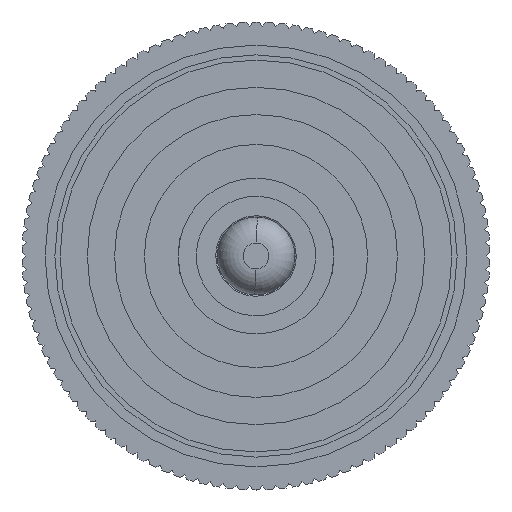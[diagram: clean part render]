
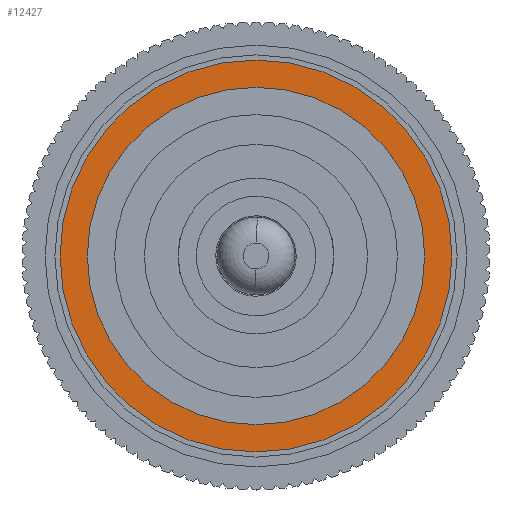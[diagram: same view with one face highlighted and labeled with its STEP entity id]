
A CAD part, left-side view. The second image highlights one B-rep face of the part: STEP entity #12427.
In plain terms, the highlighted planar face has unit normal (-1, 0, 0).
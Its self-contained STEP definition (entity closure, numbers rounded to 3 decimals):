
#96 = AXIS2_PLACEMENT_3D ( 'NONE', #7140, #8250, #2179 ) ;
#456 = CIRCLE ( 'NONE', #11334, 3.775 ) ;
#498 = AXIS2_PLACEMENT_3D ( 'NONE', #10244, #6403, #15113 ) ;
#735 = ORIENTED_EDGE ( 'NONE', *, *, #2872, .T. ) ;
#833 = ORIENTED_EDGE ( 'NONE', *, *, #2053, .F. ) ;
#898 = CIRCLE ( 'NONE', #96, 3.775 ) ;
#1579 = CARTESIAN_POINT ( 'NONE',  ( -20., 0., 0. ) ) ;
#1806 = CARTESIAN_POINT ( 'NONE',  ( -20., 3.775, 0. ) ) ;
#2053 = EDGE_CURVE ( 'NONE', #8077, #14846, #456, .T. ) ;
#2179 = DIRECTION ( 'NONE',  ( 0., 1., 0. ) ) ;
#2872 = EDGE_CURVE ( 'NONE', #4774, #11983, #13076, .T. ) ;
#3582 = AXIS2_PLACEMENT_3D ( 'NONE', #1579, #4073, #4236 ) ;
#4073 = DIRECTION ( 'NONE',  ( 1., 0., 0. ) ) ;
#4236 = DIRECTION ( 'NONE',  ( 0., 1., 0. ) ) ;
#4282 = ORIENTED_EDGE ( 'NONE', *, *, #13236, .F. ) ;
#4774 = VERTEX_POINT ( 'NONE', #6928 ) ;
#4857 = PLANE ( 'NONE',  #498 ) ;
#5306 = CARTESIAN_POINT ( 'NONE',  ( -20., 0., 0. ) ) ;
#6403 = DIRECTION ( 'NONE',  ( -1., 0., 0. ) ) ;
#6458 = DIRECTION ( 'NONE',  ( 1., 0., 0. ) ) ;
#6928 = CARTESIAN_POINT ( 'NONE',  ( -20., 2.875, 0. ) ) ;
#7043 = CARTESIAN_POINT ( 'NONE',  ( -20., -3.775, 0. ) ) ;
#7047 = ORIENTED_EDGE ( 'NONE', *, *, #7943, .T. ) ;
#7140 = CARTESIAN_POINT ( 'NONE',  ( -20., 0., 0. ) ) ;
#7639 = DIRECTION ( 'NONE',  ( 0., 1., 0. ) ) ;
#7925 = AXIS2_PLACEMENT_3D ( 'NONE', #13820, #6458, #15068 ) ;
#7943 = EDGE_CURVE ( 'NONE', #11983, #4774, #12411, .T. ) ;
#8077 = VERTEX_POINT ( 'NONE', #7043 ) ;
#8250 = DIRECTION ( 'NONE',  ( 1., 0., 0. ) ) ;
#9000 = EDGE_LOOP ( 'NONE', ( #4282, #833 ) ) ;
#10244 = CARTESIAN_POINT ( 'NONE',  ( -20., 0., 0. ) ) ;
#10742 = FACE_OUTER_BOUND ( 'NONE', #9000, .T. ) ;
#11152 = FACE_BOUND ( 'NONE', #12591, .T. ) ;
#11334 = AXIS2_PLACEMENT_3D ( 'NONE', #5306, #11516, #7639 ) ;
#11516 = DIRECTION ( 'NONE',  ( 1., 0., 0. ) ) ;
#11983 = VERTEX_POINT ( 'NONE', #13799 ) ;
#12411 = CIRCLE ( 'NONE', #7925, 2.875 ) ;
#12427 = ADVANCED_FACE ( 'NONE', ( #11152, #10742 ), #4857, .T. ) ;
#12591 = EDGE_LOOP ( 'NONE', ( #735, #7047 ) ) ;
#13076 = CIRCLE ( 'NONE', #3582, 2.875 ) ;
#13236 = EDGE_CURVE ( 'NONE', #14846, #8077, #898, .T. ) ;
#13799 = CARTESIAN_POINT ( 'NONE',  ( -20., -2.875, 0. ) ) ;
#13820 = CARTESIAN_POINT ( 'NONE',  ( -20., 0., 0. ) ) ;
#14846 = VERTEX_POINT ( 'NONE', #1806 ) ;
#15068 = DIRECTION ( 'NONE',  ( 0., 1., 0. ) ) ;
#15113 = DIRECTION ( 'NONE',  ( 0., -1., 0. ) ) ;
